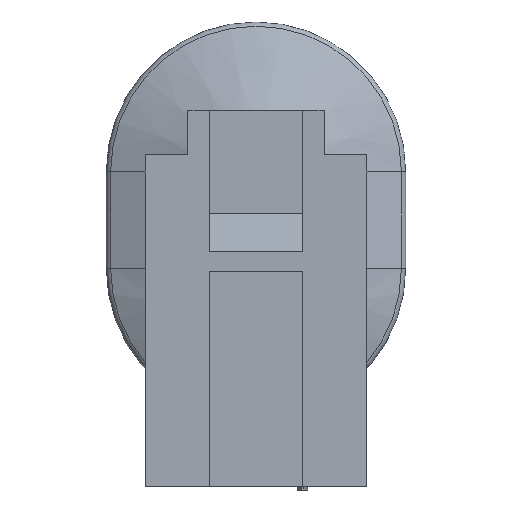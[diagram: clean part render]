
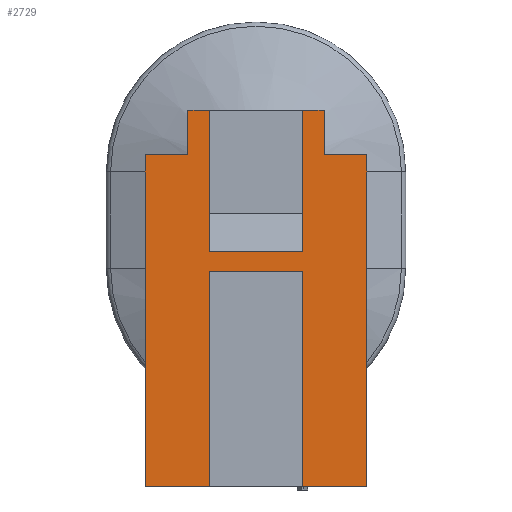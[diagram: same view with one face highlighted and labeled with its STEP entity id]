
A CAD part, front view. The second image highlights one B-rep face of the part: STEP entity #2729.
In plain terms, the highlighted planar face has unit normal (0, -1, 0).
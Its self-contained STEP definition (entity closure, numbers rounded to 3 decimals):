
#2=DIRECTION('',(-1.,0.,0.));
#3=VECTOR('',#2,1.225);
#4=CARTESIAN_POINT('',(3.875,-6.95,0.));
#5=LINE('',#4,#3);
#18=DIRECTION('',(-1.,0.,0.));
#19=VECTOR('',#18,1.225);
#20=CARTESIAN_POINT('',(-2.65,-6.95,0.));
#21=LINE('',#20,#19);
#26=DIRECTION('',(0.,0.,1.));
#27=VECTOR('',#26,12.25);
#28=CARTESIAN_POINT('',(2.65,-6.95,-21.4));
#29=LINE('',#28,#27);
#30=DIRECTION('',(1.,0.,0.));
#31=VECTOR('',#30,5.3);
#32=CARTESIAN_POINT('',(-2.65,-6.95,-9.15));
#33=LINE('',#32,#31);
#34=DIRECTION('',(0.,0.,1.));
#35=VECTOR('',#34,12.25);
#36=CARTESIAN_POINT('',(-2.65,-6.95,-21.4));
#37=LINE('',#36,#35);
#38=DIRECTION('',(0.,0.,1.));
#39=VECTOR('',#38,18.85);
#40=CARTESIAN_POINT('',(-6.3,-6.95,-21.4));
#41=LINE('',#40,#39);
#42=DIRECTION('',(1.,0.,0.));
#43=VECTOR('',#42,2.425);
#44=CARTESIAN_POINT('',(-6.3,-6.95,-2.55));
#45=LINE('',#44,#43);
#46=DIRECTION('',(0.,0.,-1.));
#47=VECTOR('',#46,2.55);
#48=CARTESIAN_POINT('',(-3.875,-6.95,0.));
#49=LINE('',#48,#47);
#50=DIRECTION('',(0.,0.,1.));
#51=VECTOR('',#50,8.048);
#52=CARTESIAN_POINT('',(-2.65,-6.95,-8.048));
#53=LINE('',#52,#51);
#54=DIRECTION('',(1.,0.,0.));
#55=VECTOR('',#54,5.3);
#56=CARTESIAN_POINT('',(-2.65,-6.95,-8.048));
#57=LINE('',#56,#55);
#58=DIRECTION('',(0.,0.,1.));
#59=VECTOR('',#58,8.048);
#60=CARTESIAN_POINT('',(2.65,-6.95,-8.048));
#61=LINE('',#60,#59);
#62=DIRECTION('',(0.,0.,-1.));
#63=VECTOR('',#62,2.55);
#64=CARTESIAN_POINT('',(3.875,-6.95,0.));
#65=LINE('',#64,#63);
#66=DIRECTION('',(1.,0.,0.));
#67=VECTOR('',#66,2.425);
#68=CARTESIAN_POINT('',(3.875,-6.95,-2.55));
#69=LINE('',#68,#67);
#70=DIRECTION('',(0.,0.,1.));
#71=VECTOR('',#70,18.85);
#72=CARTESIAN_POINT('',(6.3,-6.95,-21.4));
#73=LINE('',#72,#71);
#122=DIRECTION('',(-1.,0.,0.));
#123=VECTOR('',#122,3.65);
#124=CARTESIAN_POINT('',(6.3,-6.95,-21.4));
#125=LINE('',#124,#123);
#138=DIRECTION('',(-1.,0.,0.));
#139=VECTOR('',#138,3.65);
#140=CARTESIAN_POINT('',(-2.65,-6.95,-21.4));
#141=LINE('',#140,#139);
#2139=CARTESIAN_POINT('',(-6.3,-6.95,-21.4));
#2141=VERTEX_POINT('',#2139);
#2144=CARTESIAN_POINT('',(6.3,-6.95,-21.4));
#2146=VERTEX_POINT('',#2144);
#2148=CARTESIAN_POINT('',(-2.65,-6.95,0.));
#2150=VERTEX_POINT('',#2148);
#2152=CARTESIAN_POINT('',(2.65,-6.95,0.));
#2154=VERTEX_POINT('',#2152);
#2156=CARTESIAN_POINT('',(-2.65,-6.95,-21.4));
#2158=VERTEX_POINT('',#2156);
#2160=CARTESIAN_POINT('',(2.65,-6.95,-21.4));
#2162=VERTEX_POINT('',#2160);
#2163=CARTESIAN_POINT('',(-2.65,-6.95,-9.15));
#2164=VERTEX_POINT('',#2163);
#2165=CARTESIAN_POINT('',(-2.65,-6.95,-8.048));
#2166=VERTEX_POINT('',#2165);
#2167=CARTESIAN_POINT('',(2.65,-6.95,-9.15));
#2168=VERTEX_POINT('',#2167);
#2169=CARTESIAN_POINT('',(2.65,-6.95,-8.048));
#2170=VERTEX_POINT('',#2169);
#2592=CARTESIAN_POINT('',(6.3,-6.95,-2.55));
#2593=VERTEX_POINT('',#2592);
#2594=CARTESIAN_POINT('',(3.875,-6.95,0.));
#2595=VERTEX_POINT('',#2594);
#2652=CARTESIAN_POINT('',(-6.3,-6.95,-2.55));
#2654=VERTEX_POINT('',#2652);
#2656=CARTESIAN_POINT('',(-3.875,-6.95,-2.55));
#2657=VERTEX_POINT('',#2656);
#2658=CARTESIAN_POINT('',(3.875,-6.95,-2.55));
#2659=VERTEX_POINT('',#2658);
#2660=CARTESIAN_POINT('',(-3.875,-6.95,0.));
#2661=VERTEX_POINT('',#2660);
#2692=CARTESIAN_POINT('',(-6.3,-6.95,0.));
#2693=DIRECTION('',(0.,-1.,0.));
#2694=DIRECTION('',(1.,0.,0.));
#2695=AXIS2_PLACEMENT_3D('',#2692,#2693,#2694);
#2696=PLANE('',#2695);
#2698=ORIENTED_EDGE('',*,*,#2697,.F.);
#2700=ORIENTED_EDGE('',*,*,#2699,.T.);
#2702=ORIENTED_EDGE('',*,*,#2701,.T.);
#2704=ORIENTED_EDGE('',*,*,#2703,.F.);
#2706=ORIENTED_EDGE('',*,*,#2705,.F.);
#2708=ORIENTED_EDGE('',*,*,#2707,.T.);
#2710=ORIENTED_EDGE('',*,*,#2709,.T.);
#2712=ORIENTED_EDGE('',*,*,#2711,.T.);
#2714=ORIENTED_EDGE('',*,*,#2713,.F.);
#2715=ORIENTED_EDGE('',*,*,#2681,.F.);
#2717=ORIENTED_EDGE('',*,*,#2716,.F.);
#2719=ORIENTED_EDGE('',*,*,#2718,.T.);
#2721=ORIENTED_EDGE('',*,*,#2720,.T.);
#2722=ORIENTED_EDGE('',*,*,#2673,.F.);
#2724=ORIENTED_EDGE('',*,*,#2723,.T.);
#2726=ORIENTED_EDGE('',*,*,#2725,.T.);
#2727=EDGE_LOOP('',(#2698,#2700,#2702,#2704,#2706,#2708,#2710,#2712,#2714,#2715,
#2717,#2719,#2721,#2722,#2724,#2726));
#2728=FACE_OUTER_BOUND('',#2727,.F.);
#2673=EDGE_CURVE('',#2595,#2154,#5,.T.);
#2681=EDGE_CURVE('',#2150,#2661,#21,.T.);
#2697=EDGE_CURVE('',#2146,#2593,#73,.T.);
#2699=EDGE_CURVE('',#2146,#2162,#125,.T.);
#2701=EDGE_CURVE('',#2162,#2168,#29,.T.);
#2703=EDGE_CURVE('',#2164,#2168,#33,.T.);
#2705=EDGE_CURVE('',#2158,#2164,#37,.T.);
#2707=EDGE_CURVE('',#2158,#2141,#141,.T.);
#2709=EDGE_CURVE('',#2141,#2654,#41,.T.);
#2711=EDGE_CURVE('',#2654,#2657,#45,.T.);
#2713=EDGE_CURVE('',#2661,#2657,#49,.T.);
#2716=EDGE_CURVE('',#2166,#2150,#53,.T.);
#2718=EDGE_CURVE('',#2166,#2170,#57,.T.);
#2720=EDGE_CURVE('',#2170,#2154,#61,.T.);
#2723=EDGE_CURVE('',#2595,#2659,#65,.T.);
#2725=EDGE_CURVE('',#2659,#2593,#69,.T.);
#2729=ADVANCED_FACE('',(#2728),#2696,.T.);
